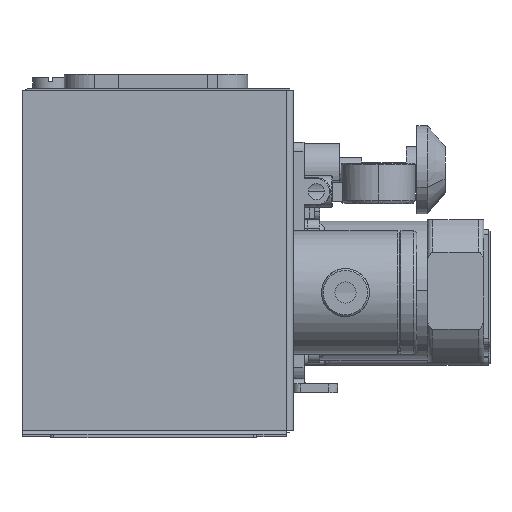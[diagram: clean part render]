
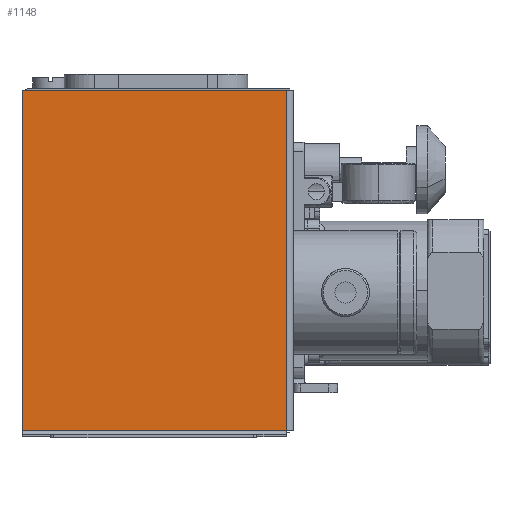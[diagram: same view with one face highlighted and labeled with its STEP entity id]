
A CAD part, left-side view. The second image highlights one B-rep face of the part: STEP entity #1148.
In plain terms, the highlighted planar face has unit normal (-1, 0, 0).
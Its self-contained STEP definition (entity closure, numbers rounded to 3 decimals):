
#19 = VECTOR ( 'NONE', #19525, 1000. ) ;
#164 = CARTESIAN_POINT ( 'NONE',  ( -12.663, 164.093, 192.739 ) ) ;
#758 = VERTEX_POINT ( 'NONE', #23380 ) ;
#843 = VECTOR ( 'NONE', #5610, 1000. ) ;
#1148 = ADVANCED_FACE ( 'NONE', ( #3344 ), #4743, .T. ) ;
#1667 = LINE ( 'NONE', #21506, #7792 ) ;
#3344 = FACE_OUTER_BOUND ( 'NONE', #17281, .T. ) ;
#4743 = PLANE ( 'NONE',  #19439 ) ;
#5610 = DIRECTION ( 'NONE',  ( 0., 1., 0. ) ) ;
#6007 = ORIENTED_EDGE ( 'NONE', *, *, #23042, .F. ) ;
#6473 = CARTESIAN_POINT ( 'NONE',  ( -12.663, 240.093, 191.739 ) ) ;
#6599 = CARTESIAN_POINT ( 'NONE',  ( -12.663, 90.093, 191.739 ) ) ;
#6938 = DIRECTION ( 'NONE',  ( 0., 0., 1. ) ) ;
#7785 = EDGE_CURVE ( 'NONE', #22705, #758, #24204, .T. ) ;
#7792 = VECTOR ( 'NONE', #8542, 1000. ) ;
#8542 = DIRECTION ( 'NONE',  ( 0., 0., 1. ) ) ;
#8954 = LINE ( 'NONE', #24167, #25653 ) ;
#10216 = CARTESIAN_POINT ( 'NONE',  ( -12.663, 240.093, 191.739 ) ) ;
#10991 = VERTEX_POINT ( 'NONE', #6473 ) ;
#11132 = CARTESIAN_POINT ( 'NONE',  ( -12.663, 88.093, 384.739 ) ) ;
#11446 = ORIENTED_EDGE ( 'NONE', *, *, #7785, .F. ) ;
#12202 = CARTESIAN_POINT ( 'NONE',  ( -12.663, 240.093, 384.739 ) ) ;
#12397 = VERTEX_POINT ( 'NONE', #6599 ) ;
#14655 = EDGE_CURVE ( 'NONE', #12397, #758, #1667, .T. ) ;
#15339 = DIRECTION ( 'NONE',  ( -1., 0., 0. ) ) ;
#15430 = LINE ( 'NONE', #10216, #843 ) ;
#17281 = EDGE_LOOP ( 'NONE', ( #28183, #25578, #11446, #6007 ) ) ;
#18224 = EDGE_CURVE ( 'NONE', #12397, #10991, #15430, .T. ) ;
#19439 = AXIS2_PLACEMENT_3D ( 'NONE', #164, #15339, #19931 ) ;
#19525 = DIRECTION ( 'NONE',  ( 0., -1., 0. ) ) ;
#19931 = DIRECTION ( 'NONE',  ( 0., -1., 0. ) ) ;
#21506 = CARTESIAN_POINT ( 'NONE',  ( -12.663, 90.093, 192.739 ) ) ;
#22705 = VERTEX_POINT ( 'NONE', #12202 ) ;
#23042 = EDGE_CURVE ( 'NONE', #10991, #22705, #8954, .T. ) ;
#23380 = CARTESIAN_POINT ( 'NONE',  ( -12.663, 90.093, 384.739 ) ) ;
#24167 = CARTESIAN_POINT ( 'NONE',  ( -12.663, 240.093, 384.739 ) ) ;
#24204 = LINE ( 'NONE', #11132, #19 ) ;
#25578 = ORIENTED_EDGE ( 'NONE', *, *, #14655, .T. ) ;
#25653 = VECTOR ( 'NONE', #6938, 1000. ) ;
#28183 = ORIENTED_EDGE ( 'NONE', *, *, #18224, .F. ) ;
